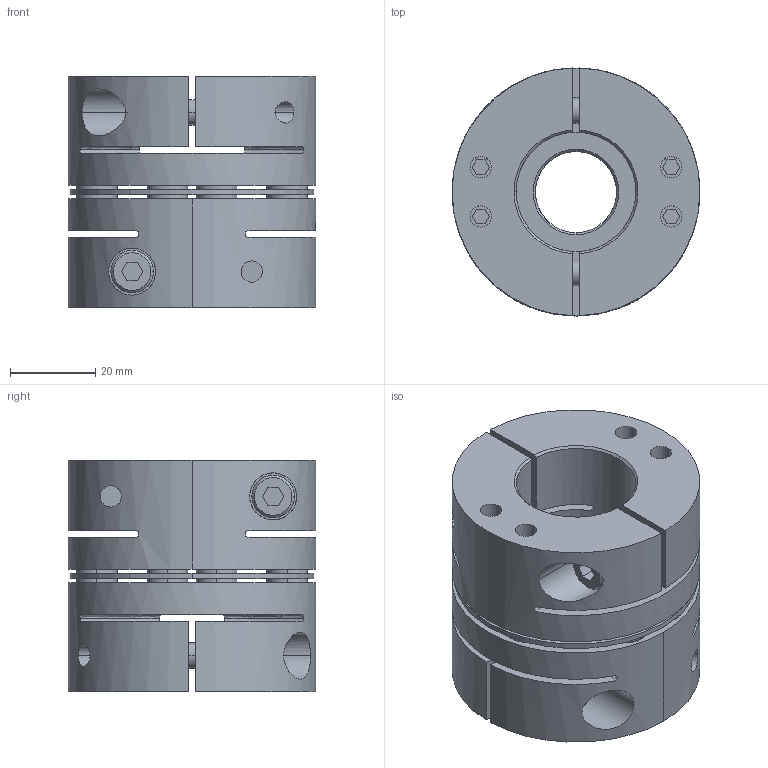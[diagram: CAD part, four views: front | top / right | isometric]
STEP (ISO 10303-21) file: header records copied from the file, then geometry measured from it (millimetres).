
FILE_DESCRIPTION((''),'2;1');
FILE_NAME('TAS-58C-19×28.stp','2022-11-14T22:20:38',(''),(''),'AutoCAD STEP 2000i','AutoCAD 2000i',', , ');
FILE_SCHEMA(('CONFIG_CONTROL_DESIGN'));
Length unit declared in the file: millimetre
Products named in the file (6): TAS-58C-12×22; 忣兜1; TA58C-22; CAP-M6×20; TA58C-12-2; TA58C-12
Assembly tree (7 placements, depth 3):
  TAS-58C-12×22
    忣兜1
    TA58C-22
      CAP-M6×20
    TA58C-12-2
      CAP-M6×20
    TA58C-12
      CAP-M6×20
Bounding box: 58 x 58 x 54.25 mm (x, y, z)
Volume: 99432.9 mm3; surface area: 41166.9 mm2
Topology: 1 solids, 1 shells, 360 faces, 894 edges, 628 vertices
Faces by surface type: plane 160, cylinder 148, cone 36, bspline 16
Entity records: 12805 total; most frequent: CARTESIAN_POINT 3832, DIRECTION 1922, ORIENTED_EDGE 1720, EDGE_CURVE 860, AXIS2_PLACEMENT_3D 732, VERTEX_POINT 564, EDGE_LOOP 464, VECTOR 458
